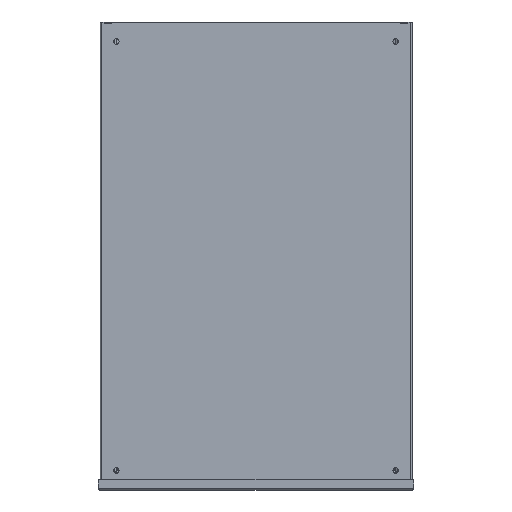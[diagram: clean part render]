
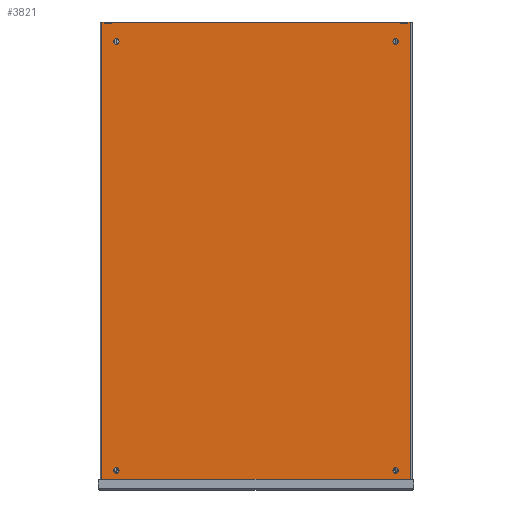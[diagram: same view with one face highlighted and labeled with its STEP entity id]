
A CAD part, front view. The second image highlights one B-rep face of the part: STEP entity #3821.
In plain terms, the highlighted planar face has unit normal (0, -1, 0).
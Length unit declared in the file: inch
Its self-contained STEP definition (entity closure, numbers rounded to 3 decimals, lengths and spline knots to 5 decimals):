
#715=DIRECTION('',(0.,0.,-1.));
#716=VECTOR('',#715,35.925);
#717=CARTESIAN_POINT('',(11.864,0.,0.));
#718=LINE('',#717,#716);
#745=DIRECTION('',(1.,0.,0.));
#746=VECTOR('',#745,23.728);
#747=CARTESIAN_POINT('',(-11.864,0.,-35.925));
#748=LINE('',#747,#746);
#766=CARTESIAN_POINT('',(-10.75,0.,-1.5));
#767=DIRECTION('',(0.,-1.,0.));
#768=DIRECTION('',(1.,0.,0.));
#769=AXIS2_PLACEMENT_3D('',#766,#767,#768);
#774=CARTESIAN_POINT('',(-10.75,0.,-1.5));
#775=DIRECTION('',(0.,-1.,0.));
#776=DIRECTION('',(-1.,0.,0.));
#777=AXIS2_PLACEMENT_3D('',#774,#775,#776);
#782=CARTESIAN_POINT('',(10.75,0.,-1.5));
#783=DIRECTION('',(0.,-1.,0.));
#784=DIRECTION('',(1.,0.,0.));
#785=AXIS2_PLACEMENT_3D('',#782,#783,#784);
#790=CARTESIAN_POINT('',(10.75,0.,-1.5));
#791=DIRECTION('',(0.,-1.,0.));
#792=DIRECTION('',(-1.,0.,0.));
#793=AXIS2_PLACEMENT_3D('',#790,#791,#792);
#798=CARTESIAN_POINT('',(10.75,0.,-34.5));
#799=DIRECTION('',(0.,-1.,0.));
#800=DIRECTION('',(1.,0.,0.));
#801=AXIS2_PLACEMENT_3D('',#798,#799,#800);
#806=CARTESIAN_POINT('',(10.75,0.,-34.5));
#807=DIRECTION('',(0.,-1.,0.));
#808=DIRECTION('',(-1.,0.,0.));
#809=AXIS2_PLACEMENT_3D('',#806,#807,#808);
#814=CARTESIAN_POINT('',(-10.75,0.,-34.5));
#815=DIRECTION('',(0.,-1.,0.));
#816=DIRECTION('',(1.,0.,0.));
#817=AXIS2_PLACEMENT_3D('',#814,#815,#816);
#822=CARTESIAN_POINT('',(-10.75,0.,-34.5));
#823=DIRECTION('',(0.,-1.,0.));
#824=DIRECTION('',(-1.,0.,0.));
#825=AXIS2_PLACEMENT_3D('',#822,#823,#824);
#830=DIRECTION('',(0.,0.,-1.));
#831=VECTOR('',#830,0.05);
#832=CARTESIAN_POINT('',(-11.675,0.,-0.015));
#833=LINE('',#832,#831);
#837=DIRECTION('',(-1.,0.,0.));
#838=VECTOR('',#837,0.25);
#839=CARTESIAN_POINT('',(-11.41,0.,-0.08));
#840=LINE('',#839,#838);
#844=DIRECTION('',(-1.,0.,0.));
#845=VECTOR('',#844,0.25);
#846=CARTESIAN_POINT('',(-11.16,0.,-0.08));
#847=LINE('',#846,#845);
#851=DIRECTION('',(0.,0.,-1.));
#852=VECTOR('',#851,0.05);
#853=CARTESIAN_POINT('',(-11.145,0.,-0.015));
#854=LINE('',#853,#852);
#858=DIRECTION('',(0.,0.,-1.));
#859=VECTOR('',#858,0.05);
#860=CARTESIAN_POINT('',(11.145,0.,-0.015));
#861=LINE('',#860,#859);
#865=DIRECTION('',(-1.,0.,0.));
#866=VECTOR('',#865,0.25);
#867=CARTESIAN_POINT('',(11.41,0.,-0.08));
#868=LINE('',#867,#866);
#872=DIRECTION('',(-1.,0.,0.));
#873=VECTOR('',#872,0.25);
#874=CARTESIAN_POINT('',(11.66,0.,-0.08));
#875=LINE('',#874,#873);
#879=DIRECTION('',(0.,0.,-1.));
#880=VECTOR('',#879,0.05);
#881=CARTESIAN_POINT('',(11.675,0.,-0.015));
#882=LINE('',#881,#880);
#886=DIRECTION('',(0.,0.,-1.));
#887=VECTOR('',#886,35.925);
#888=CARTESIAN_POINT('',(-11.864,0.,0.));
#889=LINE('',#888,#887);
#1098=CARTESIAN_POINT('',(-11.69,0.,-0.015));
#1099=DIRECTION('',(0.,-1.,0.));
#1100=DIRECTION('',(1.,0.,0.));
#1101=AXIS2_PLACEMENT_3D('',#1098,#1099,#1100);
#1106=DIRECTION('',(1.,0.,0.));
#1107=VECTOR('',#1106,0.174);
#1108=CARTESIAN_POINT('',(-11.864,0.,0.));
#1109=LINE('',#1108,#1107);
#1134=DIRECTION('',(1.,0.,0.));
#1135=VECTOR('',#1134,22.26);
#1136=CARTESIAN_POINT('',(-11.13,0.,0.));
#1137=LINE('',#1136,#1135);
#1148=DIRECTION('',(1.,0.,0.));
#1149=VECTOR('',#1148,0.174);
#1150=CARTESIAN_POINT('',(11.69,0.,0.));
#1151=LINE('',#1150,#1149);
#2267=CARTESIAN_POINT('',(-11.13,0.,-0.015));
#2268=DIRECTION('',(0.,-1.,0.));
#2269=DIRECTION('',(0.,0.,1.));
#2270=AXIS2_PLACEMENT_3D('',#2267,#2268,#2269);
#2282=CARTESIAN_POINT('',(-11.16,0.,-0.065));
#2283=DIRECTION('',(0.,1.,0.));
#2284=DIRECTION('',(1.,0.,0.));
#2285=AXIS2_PLACEMENT_3D('',#2282,#2283,#2284);
#2319=CARTESIAN_POINT('',(-11.66,0.,-0.065));
#2320=DIRECTION('',(0.,1.,0.));
#2321=DIRECTION('',(0.,0.,-1.));
#2322=AXIS2_PLACEMENT_3D('',#2319,#2320,#2321);
#2364=CARTESIAN_POINT('',(11.13,0.,-0.015));
#2365=DIRECTION('',(0.,-1.,0.));
#2366=DIRECTION('',(1.,0.,0.));
#2367=AXIS2_PLACEMENT_3D('',#2364,#2365,#2366);
#2379=CARTESIAN_POINT('',(11.16,0.,-0.065));
#2380=DIRECTION('',(0.,1.,0.));
#2381=DIRECTION('',(0.,0.,-1.));
#2382=AXIS2_PLACEMENT_3D('',#2379,#2380,#2381);
#2416=CARTESIAN_POINT('',(11.66,0.,-0.065));
#2417=DIRECTION('',(0.,1.,0.));
#2418=DIRECTION('',(1.,0.,0.));
#2419=AXIS2_PLACEMENT_3D('',#2416,#2417,#2418);
#2461=CARTESIAN_POINT('',(11.69,0.,-0.015));
#2462=DIRECTION('',(0.,-1.,0.));
#2463=DIRECTION('',(0.,0.,1.));
#2464=AXIS2_PLACEMENT_3D('',#2461,#2462,#2463);
#2667=CARTESIAN_POINT('',(-11.864,0.,0.));
#2668=VERTEX_POINT('',#2667);
#2669=CARTESIAN_POINT('',(11.864,0.,0.));
#2671=VERTEX_POINT('',#2669);
#2683=CARTESIAN_POINT('',(-11.864,0.,-35.925));
#2684=VERTEX_POINT('',#2683);
#2685=CARTESIAN_POINT('',(11.864,0.,-35.925));
#2686=VERTEX_POINT('',#2685);
#2741=CARTESIAN_POINT('',(11.41,0.,-0.08));
#2743=VERTEX_POINT('',#2741);
#2745=CARTESIAN_POINT('',(-11.41,0.,-0.08));
#2747=VERTEX_POINT('',#2745);
#2749=CARTESIAN_POINT('',(-10.531,0.,-1.5));
#2750=CARTESIAN_POINT('',(-10.969,0.,-1.5));
#2751=VERTEX_POINT('',#2749);
#2752=VERTEX_POINT('',#2750);
#2753=CARTESIAN_POINT('',(10.969,0.,-1.5));
#2754=CARTESIAN_POINT('',(10.531,0.,-1.5));
#2755=VERTEX_POINT('',#2753);
#2756=VERTEX_POINT('',#2754);
#2757=CARTESIAN_POINT('',(10.969,0.,-34.5));
#2758=CARTESIAN_POINT('',(10.531,0.,-34.5));
#2759=VERTEX_POINT('',#2757);
#2760=VERTEX_POINT('',#2758);
#2761=CARTESIAN_POINT('',(-10.531,0.,-34.5));
#2762=CARTESIAN_POINT('',(-10.969,0.,-34.5));
#2763=VERTEX_POINT('',#2761);
#2764=VERTEX_POINT('',#2762);
#2829=CARTESIAN_POINT('',(-11.66,0.,-0.08));
#2831=VERTEX_POINT('',#2829);
#2833=CARTESIAN_POINT('',(-11.675,0.,-0.065));
#2835=VERTEX_POINT('',#2833);
#2837=CARTESIAN_POINT('',(-11.145,0.,-0.065));
#2839=VERTEX_POINT('',#2837);
#2841=CARTESIAN_POINT('',(-11.16,0.,-0.08));
#2843=VERTEX_POINT('',#2841);
#2845=CARTESIAN_POINT('',(11.16,0.,-0.08));
#2847=VERTEX_POINT('',#2845);
#2849=CARTESIAN_POINT('',(11.145,0.,-0.065));
#2851=VERTEX_POINT('',#2849);
#2853=CARTESIAN_POINT('',(11.675,0.,-0.065));
#2855=VERTEX_POINT('',#2853);
#2857=CARTESIAN_POINT('',(11.66,0.,-0.08));
#2859=VERTEX_POINT('',#2857);
#2870=CARTESIAN_POINT('',(-11.69,0.,0.));
#2872=VERTEX_POINT('',#2870);
#2875=CARTESIAN_POINT('',(-11.675,0.,-0.015));
#2876=VERTEX_POINT('',#2875);
#2878=CARTESIAN_POINT('',(-11.145,0.,-0.015));
#2880=VERTEX_POINT('',#2878);
#2883=CARTESIAN_POINT('',(-11.13,0.,0.));
#2884=VERTEX_POINT('',#2883);
#2886=CARTESIAN_POINT('',(11.13,0.,0.));
#2888=VERTEX_POINT('',#2886);
#2891=CARTESIAN_POINT('',(11.145,0.,-0.015));
#2892=VERTEX_POINT('',#2891);
#2894=CARTESIAN_POINT('',(11.675,0.,-0.015));
#2896=VERTEX_POINT('',#2894);
#2899=CARTESIAN_POINT('',(11.69,0.,0.));
#2900=VERTEX_POINT('',#2899);
#3748=CARTESIAN_POINT('',(-11.864,0.,0.));
#3749=DIRECTION('',(0.,-1.,0.));
#3750=DIRECTION('',(1.,0.,0.));
#3751=AXIS2_PLACEMENT_3D('',#3748,#3749,#3750);
#3752=PLANE('',#3751);
#3754=ORIENTED_EDGE('',*,*,#3753,.F.);
#3756=ORIENTED_EDGE('',*,*,#3755,.T.);
#3758=ORIENTED_EDGE('',*,*,#3757,.F.);
#3760=ORIENTED_EDGE('',*,*,#3759,.F.);
#3762=ORIENTED_EDGE('',*,*,#3761,.F.);
#3764=ORIENTED_EDGE('',*,*,#3763,.F.);
#3766=ORIENTED_EDGE('',*,*,#3765,.F.);
#3768=ORIENTED_EDGE('',*,*,#3767,.F.);
#3770=ORIENTED_EDGE('',*,*,#3769,.T.);
#3772=ORIENTED_EDGE('',*,*,#3771,.F.);
#3774=ORIENTED_EDGE('',*,*,#3773,.T.);
#3776=ORIENTED_EDGE('',*,*,#3775,.F.);
#3778=ORIENTED_EDGE('',*,*,#3777,.F.);
#3780=ORIENTED_EDGE('',*,*,#3779,.F.);
#3782=ORIENTED_EDGE('',*,*,#3781,.F.);
#3784=ORIENTED_EDGE('',*,*,#3783,.F.);
#3786=ORIENTED_EDGE('',*,*,#3785,.F.);
#3788=ORIENTED_EDGE('',*,*,#3787,.T.);
#3789=ORIENTED_EDGE('',*,*,#3715,.T.);
#3790=ORIENTED_EDGE('',*,*,#3738,.F.);
#3792=ORIENTED_EDGE('',*,*,#3791,.F.);
#3794=ORIENTED_EDGE('',*,*,#3793,.T.);
#3795=EDGE_LOOP('',(#3754,#3756,#3758,#3760,#3762,#3764,#3766,#3768,#3770,#3772,
#3774,#3776,#3778,#3780,#3782,#3784,#3786,#3788,#3789,#3790,#3792,#3794));
#3796=FACE_OUTER_BOUND('',#3795,.F.);
#3798=ORIENTED_EDGE('',*,*,#3797,.T.);
#3800=ORIENTED_EDGE('',*,*,#3799,.T.);
#3801=EDGE_LOOP('',(#3798,#3800));
#3802=FACE_BOUND('',#3801,.F.);
#3804=ORIENTED_EDGE('',*,*,#3803,.T.);
#3806=ORIENTED_EDGE('',*,*,#3805,.T.);
#3807=EDGE_LOOP('',(#3804,#3806));
#3808=FACE_BOUND('',#3807,.F.);
#3810=ORIENTED_EDGE('',*,*,#3809,.T.);
#3812=ORIENTED_EDGE('',*,*,#3811,.T.);
#3813=EDGE_LOOP('',(#3810,#3812));
#3814=FACE_BOUND('',#3813,.F.);
#3816=ORIENTED_EDGE('',*,*,#3815,.T.);
#3818=ORIENTED_EDGE('',*,*,#3817,.T.);
#3819=EDGE_LOOP('',(#3816,#3818));
#3820=FACE_BOUND('',#3819,.F.);
#770=CIRCLE('',#769,0.219);
#778=CIRCLE('',#777,0.219);
#786=CIRCLE('',#785,0.219);
#794=CIRCLE('',#793,0.219);
#802=CIRCLE('',#801,0.219);
#810=CIRCLE('',#809,0.219);
#818=CIRCLE('',#817,0.219);
#826=CIRCLE('',#825,0.219);
#1102=CIRCLE('',#1101,0.015);
#2271=CIRCLE('',#2270,0.015);
#2286=CIRCLE('',#2285,0.015);
#2323=CIRCLE('',#2322,0.015);
#2368=CIRCLE('',#2367,0.015);
#2383=CIRCLE('',#2382,0.015);
#2420=CIRCLE('',#2419,0.015);
#2465=CIRCLE('',#2464,0.015);
#3715=EDGE_CURVE('',#2671,#2686,#718,.T.);
#3738=EDGE_CURVE('',#2684,#2686,#748,.T.);
#3753=EDGE_CURVE('',#2876,#2872,#1102,.T.);
#3755=EDGE_CURVE('',#2876,#2835,#833,.T.);
#3757=EDGE_CURVE('',#2831,#2835,#2323,.T.);
#3759=EDGE_CURVE('',#2747,#2831,#840,.T.);
#3761=EDGE_CURVE('',#2843,#2747,#847,.T.);
#3763=EDGE_CURVE('',#2839,#2843,#2286,.T.);
#3765=EDGE_CURVE('',#2880,#2839,#854,.T.);
#3767=EDGE_CURVE('',#2884,#2880,#2271,.T.);
#3769=EDGE_CURVE('',#2884,#2888,#1137,.T.);
#3771=EDGE_CURVE('',#2892,#2888,#2368,.T.);
#3773=EDGE_CURVE('',#2892,#2851,#861,.T.);
#3775=EDGE_CURVE('',#2847,#2851,#2383,.T.);
#3777=EDGE_CURVE('',#2743,#2847,#868,.T.);
#3779=EDGE_CURVE('',#2859,#2743,#875,.T.);
#3781=EDGE_CURVE('',#2855,#2859,#2420,.T.);
#3783=EDGE_CURVE('',#2896,#2855,#882,.T.);
#3785=EDGE_CURVE('',#2900,#2896,#2465,.T.);
#3787=EDGE_CURVE('',#2900,#2671,#1151,.T.);
#3791=EDGE_CURVE('',#2668,#2684,#889,.T.);
#3793=EDGE_CURVE('',#2668,#2872,#1109,.T.);
#3797=EDGE_CURVE('',#2755,#2756,#786,.T.);
#3799=EDGE_CURVE('',#2756,#2755,#794,.T.);
#3803=EDGE_CURVE('',#2759,#2760,#802,.T.);
#3805=EDGE_CURVE('',#2760,#2759,#810,.T.);
#3809=EDGE_CURVE('',#2763,#2764,#818,.T.);
#3811=EDGE_CURVE('',#2764,#2763,#826,.T.);
#3815=EDGE_CURVE('',#2751,#2752,#770,.T.);
#3817=EDGE_CURVE('',#2752,#2751,#778,.T.);
#3821=ADVANCED_FACE('',(#3796,#3802,#3808,#3814,#3820),#3752,.T.);
